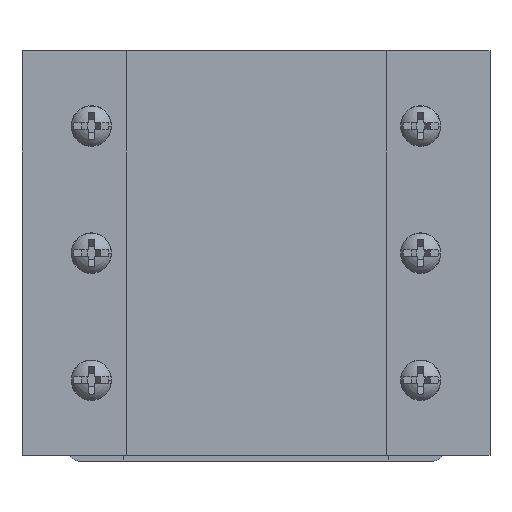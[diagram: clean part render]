
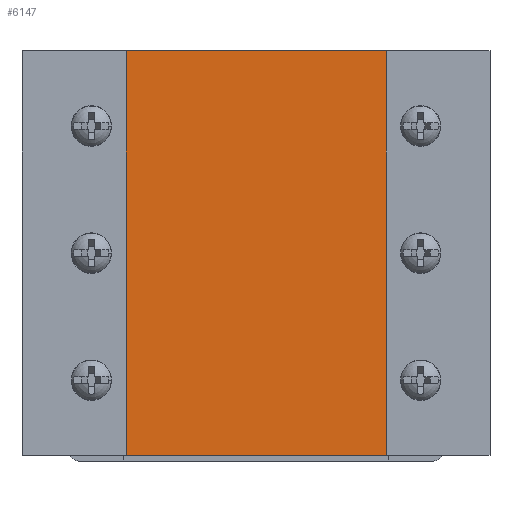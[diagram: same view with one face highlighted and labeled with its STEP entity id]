
A CAD part, front view. The second image highlights one B-rep face of the part: STEP entity #6147.
In plain terms, the highlighted planar face has unit normal (0, -1, 0).
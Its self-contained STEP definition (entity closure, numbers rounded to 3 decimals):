
#27=DIRECTION('',(1.,0.,0.));
#28=VECTOR('',#27,45.);
#29=CARTESIAN_POINT('',(-22.5,4.,-35.));
#30=LINE('',#29,#28);
#1599=DIRECTION('',(1.,0.,0.));
#1600=VECTOR('',#1599,45.);
#1601=CARTESIAN_POINT('',(-22.5,4.,35.));
#1602=LINE('',#1601,#1600);
#1721=DIRECTION('',(0.,0.,1.));
#1722=VECTOR('',#1721,70.);
#1723=CARTESIAN_POINT('',(22.5,4.,-35.));
#1724=LINE('',#1723,#1722);
#1725=DIRECTION('',(0.,0.,1.));
#1726=VECTOR('',#1725,70.);
#1727=CARTESIAN_POINT('',(-22.5,4.,-35.));
#1728=LINE('',#1727,#1726);
#2796=CARTESIAN_POINT('',(-22.5,4.,-35.));
#2797=VERTEX_POINT('',#2796);
#2798=CARTESIAN_POINT('',(22.5,4.,-35.));
#2799=VERTEX_POINT('',#2798);
#2816=CARTESIAN_POINT('',(-22.5,4.,35.));
#2817=VERTEX_POINT('',#2816);
#2818=CARTESIAN_POINT('',(22.5,4.,35.));
#2819=VERTEX_POINT('',#2818);
#6135=CARTESIAN_POINT('',(-22.5,4.,-35.));
#6136=DIRECTION('',(0.,-1.,0.));
#6137=DIRECTION('',(1.,0.,0.));
#6138=AXIS2_PLACEMENT_3D('',#6135,#6136,#6137);
#6139=PLANE('',#6138);
#6140=ORIENTED_EDGE('',*,*,#3667,.F.);
#6142=ORIENTED_EDGE('',*,*,#6141,.T.);
#6143=ORIENTED_EDGE('',*,*,#5987,.T.);
#6144=ORIENTED_EDGE('',*,*,#6128,.F.);
#6145=EDGE_LOOP('',(#6140,#6142,#6143,#6144));
#6146=FACE_OUTER_BOUND('',#6145,.F.);
#6147=ADVANCED_FACE('',(#6146),#6139,.T.);
#3667=EDGE_CURVE('',#2797,#2799,#30,.T.);
#5987=EDGE_CURVE('',#2817,#2819,#1602,.T.);
#6128=EDGE_CURVE('',#2799,#2819,#1724,.T.);
#6141=EDGE_CURVE('',#2797,#2817,#1728,.T.);
